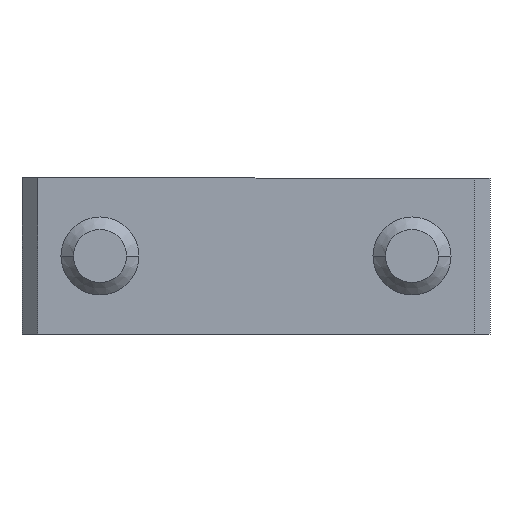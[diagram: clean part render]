
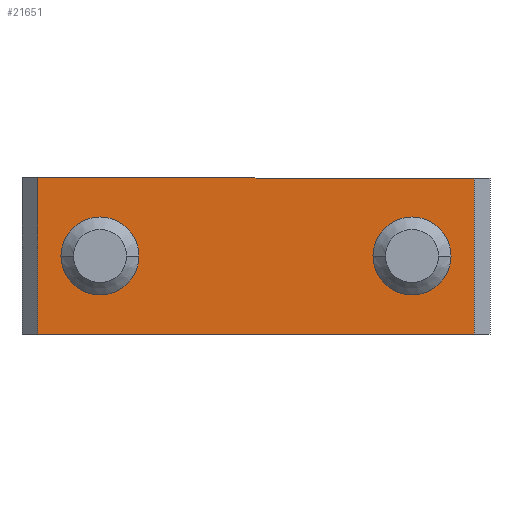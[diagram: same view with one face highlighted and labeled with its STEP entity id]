
A CAD part, front view. The second image highlights one B-rep face of the part: STEP entity #21651.
In plain terms, the highlighted planar face has unit normal (0, -1, 0).
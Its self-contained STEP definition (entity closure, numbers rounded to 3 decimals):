
#860 = DIRECTION ( 'NONE',  ( 0., -1., 0. ) ) ;
#932 = VERTEX_POINT ( 'NONE', #15182 ) ;
#2450 = AXIS2_PLACEMENT_3D ( 'NONE', #18789, #12038, #17219 ) ;
#2684 = CARTESIAN_POINT ( 'NONE',  ( -85.117, 27.304, 0. ) ) ;
#2755 = DIRECTION ( 'NONE',  ( 0., 0., 1. ) ) ;
#2767 = FACE_OUTER_BOUND ( 'NONE', #3842, .T. ) ;
#2868 = LINE ( 'NONE', #4828, #7978 ) ;
#2915 = DIRECTION ( 'NONE',  ( 0., 0., 1. ) ) ;
#2976 = CARTESIAN_POINT ( 'NONE',  ( -61.117, 27.304, 2.5 ) ) ;
#2978 = CARTESIAN_POINT ( 'NONE',  ( -61.117, 27.304, -2.5 ) ) ;
#3026 = EDGE_CURVE ( 'NONE', #16365, #12604, #19216, .T. ) ;
#3710 = DIRECTION ( 'NONE',  ( 0., -1., 0. ) ) ;
#3789 = CARTESIAN_POINT ( 'NONE',  ( -61.117, 27.304, 0. ) ) ;
#3842 = EDGE_LOOP ( 'NONE', ( #17003, #11755, #19366, #20926 ) ) ;
#4197 = EDGE_CURVE ( 'NONE', #932, #9846, #8392, .T. ) ;
#4594 = CARTESIAN_POINT ( 'NONE',  ( -61.117, 27.304, 0. ) ) ;
#4828 = CARTESIAN_POINT ( 'NONE',  ( -71.117, 27.304, 5. ) ) ;
#4893 = DIRECTION ( 'NONE',  ( 0., -1., 0. ) ) ;
#7487 = LINE ( 'NONE', #15925, #20620 ) ;
#7598 = FACE_BOUND ( 'NONE', #17390, .T. ) ;
#7755 = ORIENTED_EDGE ( 'NONE', *, *, #4197, .F. ) ;
#7783 = AXIS2_PLACEMENT_3D ( 'NONE', #4594, #860, #9544 ) ;
#7918 = EDGE_CURVE ( 'NONE', #12604, #16365, #19095, .T. ) ;
#7933 = VERTEX_POINT ( 'NONE', #14898 ) ;
#7978 = VECTOR ( 'NONE', #19893, 1000. ) ;
#8102 = DIRECTION ( 'NONE',  ( 0., 1., 0. ) ) ;
#8392 = CIRCLE ( 'NONE', #8879, 2.5 ) ;
#8603 = EDGE_CURVE ( 'NONE', #14282, #12033, #2868, .T. ) ;
#8879 = AXIS2_PLACEMENT_3D ( 'NONE', #13494, #4893, #11680 ) ;
#9544 = DIRECTION ( 'NONE',  ( 0., 0., -1. ) ) ;
#9846 = VERTEX_POINT ( 'NONE', #16816 ) ;
#9973 = CARTESIAN_POINT ( 'NONE',  ( -57.117, 27.304, 5. ) ) ;
#11237 = EDGE_CURVE ( 'NONE', #12033, #7933, #7487, .T. ) ;
#11509 = EDGE_CURVE ( 'NONE', #7933, #17950, #13897, .T. ) ;
#11680 = DIRECTION ( 'NONE',  ( 0., 0., -1. ) ) ;
#11755 = ORIENTED_EDGE ( 'NONE', *, *, #16256, .F. ) ;
#11925 = CARTESIAN_POINT ( 'NONE',  ( -71.117, 27.304, -5. ) ) ;
#12033 = VERTEX_POINT ( 'NONE', #9973 ) ;
#12038 = DIRECTION ( 'NONE',  ( 0., -1., 0. ) ) ;
#12604 = VERTEX_POINT ( 'NONE', #2978 ) ;
#12911 = ORIENTED_EDGE ( 'NONE', *, *, #16513, .F. ) ;
#13397 = CARTESIAN_POINT ( 'NONE',  ( -85.117, 27.304, -5. ) ) ;
#13494 = CARTESIAN_POINT ( 'NONE',  ( -81.117, 27.304, 0. ) ) ;
#13533 = LINE ( 'NONE', #2684, #21326 ) ;
#13580 = DIRECTION ( 'NONE',  ( -1., 0., 0. ) ) ;
#13897 = LINE ( 'NONE', #11925, #19778 ) ;
#14282 = VERTEX_POINT ( 'NONE', #18832 ) ;
#14786 = ORIENTED_EDGE ( 'NONE', *, *, #3026, .F. ) ;
#14898 = CARTESIAN_POINT ( 'NONE',  ( -57.117, 27.304, -5. ) ) ;
#14986 = AXIS2_PLACEMENT_3D ( 'NONE', #16418, #8102, #2915 ) ;
#15182 = CARTESIAN_POINT ( 'NONE',  ( -81.117, 27.304, -2.5 ) ) ;
#15925 = CARTESIAN_POINT ( 'NONE',  ( -57.117, 27.304, 0. ) ) ;
#16083 = ORIENTED_EDGE ( 'NONE', *, *, #7918, .F. ) ;
#16256 = EDGE_CURVE ( 'NONE', #17950, #14282, #13533, .T. ) ;
#16365 = VERTEX_POINT ( 'NONE', #2976 ) ;
#16418 = CARTESIAN_POINT ( 'NONE',  ( -85.117, 27.304, -5. ) ) ;
#16450 = FACE_BOUND ( 'NONE', #17598, .T. ) ;
#16513 = EDGE_CURVE ( 'NONE', #9846, #932, #22134, .T. ) ;
#16816 = CARTESIAN_POINT ( 'NONE',  ( -81.117, 27.304, 2.5 ) ) ;
#17003 = ORIENTED_EDGE ( 'NONE', *, *, #8603, .F. ) ;
#17219 = DIRECTION ( 'NONE',  ( 0., 0., -1. ) ) ;
#17390 = EDGE_LOOP ( 'NONE', ( #7755, #12911 ) ) ;
#17598 = EDGE_LOOP ( 'NONE', ( #16083, #14786 ) ) ;
#17599 = AXIS2_PLACEMENT_3D ( 'NONE', #3789, #3710, #22272 ) ;
#17666 = DIRECTION ( 'NONE',  ( 0., 0., -1. ) ) ;
#17950 = VERTEX_POINT ( 'NONE', #13397 ) ;
#18789 = CARTESIAN_POINT ( 'NONE',  ( -81.117, 27.304, 0. ) ) ;
#18832 = CARTESIAN_POINT ( 'NONE',  ( -85.117, 27.304, 5. ) ) ;
#19095 = CIRCLE ( 'NONE', #7783, 2.5 ) ;
#19216 = CIRCLE ( 'NONE', #17599, 2.5 ) ;
#19366 = ORIENTED_EDGE ( 'NONE', *, *, #11509, .F. ) ;
#19778 = VECTOR ( 'NONE', #13580, 1000. ) ;
#19893 = DIRECTION ( 'NONE',  ( 1., 0., 0. ) ) ;
#20620 = VECTOR ( 'NONE', #17666, 1000. ) ;
#20926 = ORIENTED_EDGE ( 'NONE', *, *, #11237, .F. ) ;
#21326 = VECTOR ( 'NONE', #2755, 1000. ) ;
#21651 = ADVANCED_FACE ( 'NONE', ( #16450, #7598, #2767 ), #21788, .F. ) ;
#21788 = PLANE ( 'NONE',  #14986 ) ;
#22134 = CIRCLE ( 'NONE', #2450, 2.5 ) ;
#22272 = DIRECTION ( 'NONE',  ( 0., 0., -1. ) ) ;
